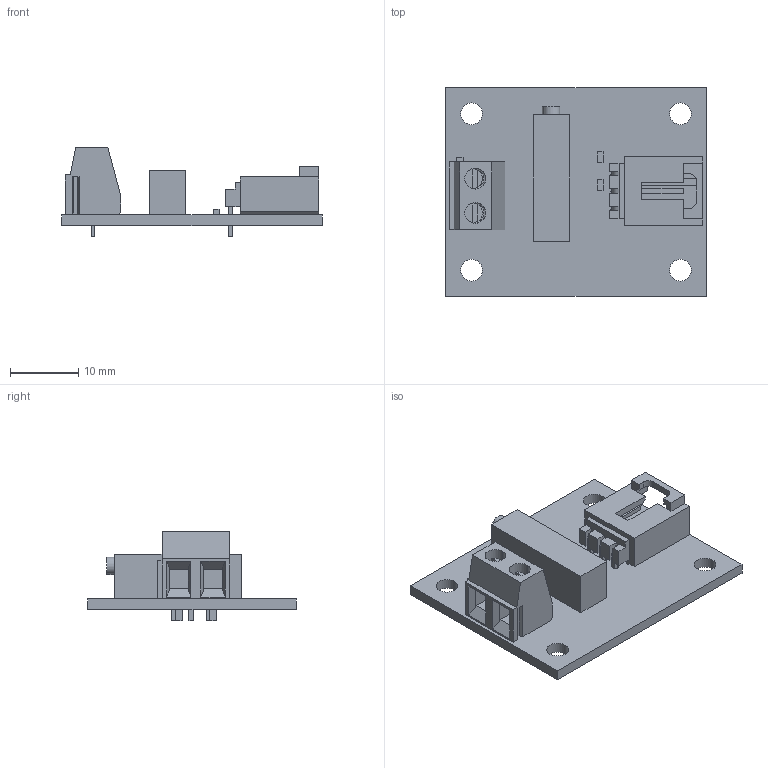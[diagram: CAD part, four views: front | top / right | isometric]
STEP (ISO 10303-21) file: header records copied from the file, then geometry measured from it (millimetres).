
FILE_DESCRIPTION(('Open CASCADE Model'),'2;1');
FILE_NAME('Open CASCADE Shape Model','2010-10-28T09:11:38',('Author'),( 'Open CASCADE'),'Open CASCADE STEP processor 6.2','Open CASCADE 6.2' ,'Unknown');
FILE_SCHEMA(('AUTOMOTIVE_DESIGN { 1 0 10303 214 1 1 1 1 }'));
Length unit declared in the file: millimetre
Products named in the file (19): PCB; Board; R2; 478801984; Extruded; 892590528; Cylinder; R1; 478788672; J2; 398900302; Open CASCADE STEP translator 6.2 54.4.1.1; Open CASCADE STEP translator 6.2 54.4.1.2; J1; 705530002; Open CASCADE STEP translator 6.2 54.5.1.1; Open CASCADE STEP translator 6.2 54.5.1.2; C1
Assembly tree (19 placements, depth 4):
  PCB
    Board
    R2
      478801984
        Extruded
      892590528
        Cylinder
    R1
      478788672
        Extruded
    J2
      398900302
        Open CASCADE STEP translator 6.2 54.4.1.1
        Open CASCADE STEP translator 6.2 54.4.1.2
    J1
      705530002
        Open CASCADE STEP translator 6.2 54.5.1.1
        Open CASCADE STEP translator 6.2 54.5.1.2
    C1
      478788672
        Extruded
Bounding box: 38.1 x 30.48 x 13.13 mm (x, y, z)
Volume: 3338.6 mm3; surface area: 4651.2 mm2
Topology: 7 solids, 7 shells, 239 faces, 648 edges, 448 vertices
Faces by surface type: plane 201, cylinder 34, cone 2, torus 2
Full cylindrical faces by diameter (mm): 0.889 x3, 0.965 x3, 1.321 x2, 2.54 x1, 3.175 x4
Entity records: 17462 total; most frequent: CARTESIAN_POINT 4771, DIRECTION 2265, LINE 1532, VECTOR 1532, ORIENTED_EDGE 1234, PCURVE 1234, DEFINITIONAL_REPRESENTATION 1234, EDGE_CURVE 617
